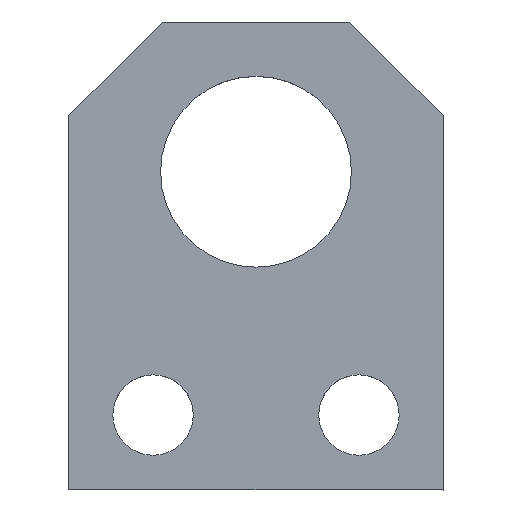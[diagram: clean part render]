
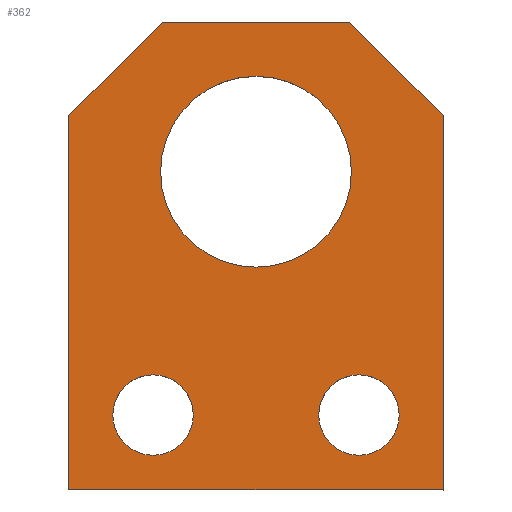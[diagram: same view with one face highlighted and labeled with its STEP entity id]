
A CAD part, top view. The second image highlights one B-rep face of the part: STEP entity #362.
In plain terms, the highlighted planar face has unit normal (0, 0, 1).
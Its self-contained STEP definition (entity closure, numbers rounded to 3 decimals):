
#1 = EDGE_LOOP ( 'NONE', ( #69 ) ) ;
#2 = AXIS2_PLACEMENT_3D ( 'NONE', #286, #65, #3 ) ;
#3 = DIRECTION ( 'NONE',  ( 1., 0., 0. ) ) ;
#19 = DIRECTION ( 'NONE',  ( -1., 0., 0. ) ) ;
#27 = EDGE_LOOP ( 'NONE', ( #330 ) ) ;
#32 = CARTESIAN_POINT ( 'NONE',  ( 10., 3., 0. ) ) ;
#33 = CARTESIAN_POINT ( 'NONE',  ( -10., -17., 0. ) ) ;
#40 = FACE_BOUND ( 'NONE', #1, .T. ) ;
#48 = AXIS2_PLACEMENT_3D ( 'NONE', #211, #364, #335 ) ;
#58 = CARTESIAN_POINT ( 'NONE',  ( -5., 8., 0. ) ) ;
#61 = CARTESIAN_POINT ( 'NONE',  ( -10., 3., 0. ) ) ;
#63 = CARTESIAN_POINT ( 'NONE',  ( -10., 3., 0. ) ) ;
#64 = LINE ( 'NONE', #32, #403 ) ;
#65 = DIRECTION ( 'NONE',  ( 0., 0., 1. ) ) ;
#68 = FACE_OUTER_BOUND ( 'NONE', #244, .T. ) ;
#69 = ORIENTED_EDGE ( 'NONE', *, *, #257, .F. ) ;
#82 = ORIENTED_EDGE ( 'NONE', *, *, #108, .T. ) ;
#103 = CARTESIAN_POINT ( 'NONE',  ( 7.65, -13., 0. ) ) ;
#108 = EDGE_CURVE ( 'NONE', #202, #363, #64, .T. ) ;
#109 = ORIENTED_EDGE ( 'NONE', *, *, #180, .T. ) ;
#111 = DIRECTION ( 'NONE',  ( 1., 0., 0. ) ) ;
#112 = VERTEX_POINT ( 'NONE', #155 ) ;
#118 = EDGE_CURVE ( 'NONE', #249, #249, #254, .T. ) ;
#126 = CARTESIAN_POINT ( 'NONE',  ( -10., -17., 0. ) ) ;
#130 = EDGE_LOOP ( 'NONE', ( #263 ) ) ;
#132 = VERTEX_POINT ( 'NONE', #203 ) ;
#147 = DIRECTION ( 'NONE',  ( 0., 0., 1. ) ) ;
#149 = ORIENTED_EDGE ( 'NONE', *, *, #200, .T. ) ;
#150 = CARTESIAN_POINT ( 'NONE',  ( 5., 8., 0. ) ) ;
#155 = CARTESIAN_POINT ( 'NONE',  ( 5., 8., 0. ) ) ;
#161 = PLANE ( 'NONE',  #2 ) ;
#165 = VECTOR ( 'NONE', #267, 1000. ) ;
#175 = DIRECTION ( 'NONE',  ( -0.707, -0.707, 0. ) ) ;
#180 = EDGE_CURVE ( 'NONE', #132, #306, #183, .T. ) ;
#181 = LINE ( 'NONE', #150, #331 ) ;
#183 = LINE ( 'NONE', #61, #360 ) ;
#185 = ORIENTED_EDGE ( 'NONE', *, *, #376, .T. ) ;
#190 = DIRECTION ( 'NONE',  ( 0., 1., 0. ) ) ;
#193 = FACE_BOUND ( 'NONE', #130, .T. ) ;
#200 = EDGE_CURVE ( 'NONE', #112, #132, #361, .T. ) ;
#202 = VERTEX_POINT ( 'NONE', #213 ) ;
#203 = CARTESIAN_POINT ( 'NONE',  ( -5., 8., 0. ) ) ;
#206 = AXIS2_PLACEMENT_3D ( 'NONE', #278, #248, #342 ) ;
#211 = CARTESIAN_POINT ( 'NONE',  ( -5.5, -13., 0. ) ) ;
#212 = ORIENTED_EDGE ( 'NONE', *, *, #226, .T. ) ;
#213 = CARTESIAN_POINT ( 'NONE',  ( 10., -17., 0. ) ) ;
#222 = EDGE_CURVE ( 'NONE', #343, #343, #259, .T. ) ;
#226 = EDGE_CURVE ( 'NONE', #306, #310, #235, .T. ) ;
#228 = VECTOR ( 'NONE', #246, 1000. ) ;
#235 = LINE ( 'NONE', #307, #165 ) ;
#244 = EDGE_LOOP ( 'NONE', ( #82, #392, #149, #109, #212, #185 ) ) ;
#246 = DIRECTION ( 'NONE',  ( 1., 0., 0. ) ) ;
#248 = DIRECTION ( 'NONE',  ( 0., 0., 1. ) ) ;
#249 = VERTEX_POINT ( 'NONE', #373 ) ;
#254 = CIRCLE ( 'NONE', #206, 5.1 ) ;
#257 = EDGE_CURVE ( 'NONE', #350, #350, #292, .T. ) ;
#259 = CIRCLE ( 'NONE', #345, 2.15 ) ;
#261 = CARTESIAN_POINT ( 'NONE',  ( -3.35, -13., 0. ) ) ;
#263 = ORIENTED_EDGE ( 'NONE', *, *, #118, .F. ) ;
#264 = EDGE_CURVE ( 'NONE', #363, #112, #181, .T. ) ;
#267 = DIRECTION ( 'NONE',  ( 0., -1., 0. ) ) ;
#272 = DIRECTION ( 'NONE',  ( -0.707, 0.707, 0. ) ) ;
#278 = CARTESIAN_POINT ( 'NONE',  ( 0., 0., 0. ) ) ;
#286 = CARTESIAN_POINT ( 'NONE',  ( 0., 0., 0. ) ) ;
#292 = CIRCLE ( 'NONE', #48, 2.15 ) ;
#306 = VERTEX_POINT ( 'NONE', #63 ) ;
#307 = CARTESIAN_POINT ( 'NONE',  ( -10., 3., 0. ) ) ;
#310 = VERTEX_POINT ( 'NONE', #33 ) ;
#311 = CARTESIAN_POINT ( 'NONE',  ( 10., 3., 0. ) ) ;
#328 = VECTOR ( 'NONE', #19, 1000. ) ;
#330 = ORIENTED_EDGE ( 'NONE', *, *, #222, .F. ) ;
#331 = VECTOR ( 'NONE', #272, 1000. ) ;
#335 = DIRECTION ( 'NONE',  ( 1., 0., 0. ) ) ;
#342 = DIRECTION ( 'NONE',  ( 1., 0., 0. ) ) ;
#343 = VERTEX_POINT ( 'NONE', #103 ) ;
#345 = AXIS2_PLACEMENT_3D ( 'NONE', #367, #147, #111 ) ;
#350 = VERTEX_POINT ( 'NONE', #261 ) ;
#360 = VECTOR ( 'NONE', #175, 1000. ) ;
#361 = LINE ( 'NONE', #58, #328 ) ;
#362 = ADVANCED_FACE ( 'NONE', ( #370, #40, #193, #68 ), #161, .T. ) ;
#363 = VERTEX_POINT ( 'NONE', #311 ) ;
#364 = DIRECTION ( 'NONE',  ( 0., 0., 1. ) ) ;
#367 = CARTESIAN_POINT ( 'NONE',  ( 5.5, -13., 0. ) ) ;
#370 = FACE_BOUND ( 'NONE', #27, .T. ) ;
#373 = CARTESIAN_POINT ( 'NONE',  ( 5.1, 0., 0. ) ) ;
#376 = EDGE_CURVE ( 'NONE', #310, #202, #402, .T. ) ;
#392 = ORIENTED_EDGE ( 'NONE', *, *, #264, .T. ) ;
#402 = LINE ( 'NONE', #126, #228 ) ;
#403 = VECTOR ( 'NONE', #190, 1000. ) ;
